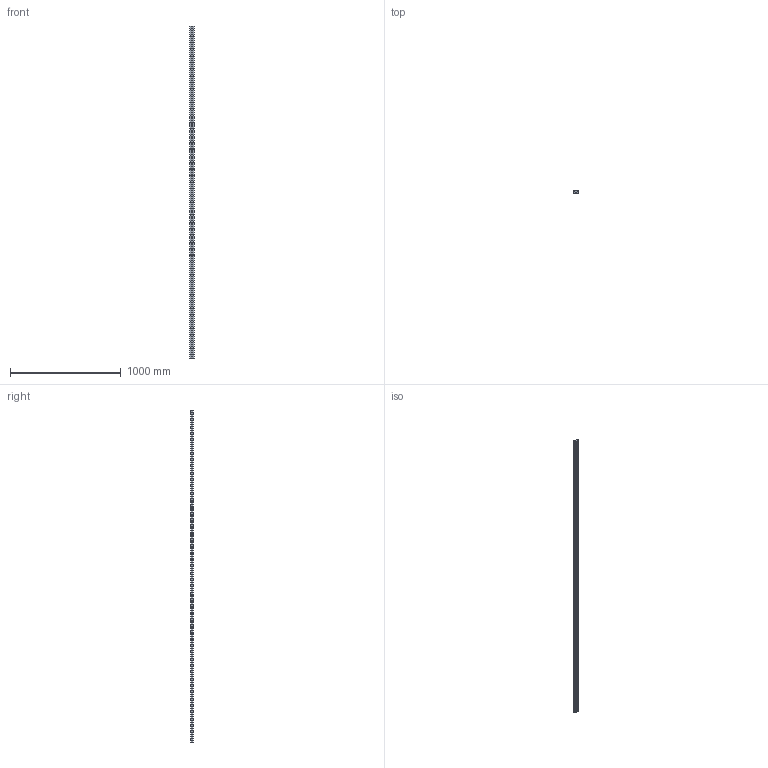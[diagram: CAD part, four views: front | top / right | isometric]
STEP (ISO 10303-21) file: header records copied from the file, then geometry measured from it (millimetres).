
FILE_DESCRIPTION (( 'STEP AP214' ), '1' );
FILE_NAME ('WRC27-20-rail.STEP', '2015-12-01T05:36:11', ( 'T1000-WGZ02' ), ( '' ), 'SwSTEP 2.0', 'SolidWorks 2010', '' );
FILE_SCHEMA (( 'AUTOMOTIVE_DESIGN' ));
Length unit declared in the file: millimetre
Products named in the file (1): WRC27-20-rail
Bounding box: 42 x 18.5 x 3000 mm (x, y, z)
Volume: 2010802.6 mm3; surface area: 398357.3 mm2
Topology: 1 solids, 1 shells, 938 faces, 2108 edges, 1272 vertices
Faces by surface type: cylinder 418, cone 400, plane 120
Entity records: 26682 total; most frequent: DIRECTION 5222, CARTESIAN_POINT 4319, ORIENTED_EDGE 4216, AXIS2_PLACEMENT_3D 2175, EDGE_CURVE 2108, VERTEX_POINT 1272, EDGE_LOOP 1238, CIRCLE 1236
